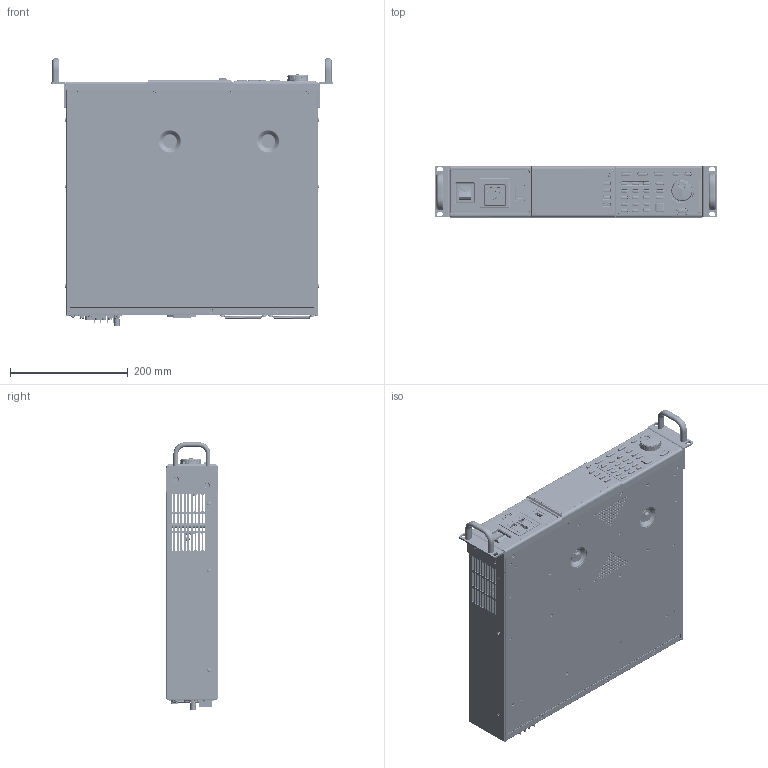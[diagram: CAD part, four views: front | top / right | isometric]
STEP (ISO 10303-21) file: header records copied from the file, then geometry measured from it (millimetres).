
FILE_DESCRIPTION((''),'2;1');
FILE_NAME('APS-500W_ASM','2020-11-02T11:26:40',('benny_chen'),(''),'CREO PARAMETRIC BY PTC INC, 2019080','CREO PARAMETRIC BY PTC INC, 2019080','');
FILE_SCHEMA(('CONFIG_CONTROL_DESIGN'));
Products named in the file (93): APS-500W_SKEL0001; APS-500W_SKEL0002; APS-1000W_FRONT_ASM_SKEL; ACSP-F-HP; S-M4-1_NUT; SO-M3-3L; SO-M3-4; SO-M3-S5; 62PS-7K0FP1B1-4_ASM; APS-HP-SOCKET_RG-02; 62PS-7K0FP2B1-2_ASM; 62PS-7K0FP1B1-3; APS-HP-SOCKET-BSF-R4_T1; 62PS-7K0FP1B1-2_ASM; 62PS-7K0FP1B1-1_ASM; LCD-PH-07008-002; APS-LCD-HOLD-3; 62PS-7K0HP301_ASM; 57RG-20B04001; 57RG-20B03901; APS-1000W_LCD_ASM_ASM; 3610-02000101-BSF-R4S-FRAME; 3610-02000101-BSF-R4S; 3610-02000101-GWT_ASM; APS-HP-A116-1229-USB01; 62PS-7K0HP101_ASM; FRP10; A116-1229-USB01; SCREW-4-40-8D3L; APS-USB-GND-HP_ASM; 3203-01200601; PMS-3X6; PMS-W-3X6; BMS-W-3X8; APS-F_ASM; APS-1000W_FRAME-A; TONGDING-5D5XM3X5L; 63FP-AG112801_ASM; 5005-350G0101; 57RB-40G11301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
Assembly tree (246 placements, depth 6):
  APS-500W_ASM
    APS-500W_SKEL0001
    APS-500W_SKEL0002
    APS-1000W_FRONT_ASM_ASM
      APS-1000W_FRONT_ASM_SKEL
      APS-F_ASM
        62PS-7K0FP1B1-1_ASM
          62PS-7K0FP1B1-4_ASM
            ACSP-F-HP
            S-M4-1_NUT  x4
            SO-M3-3L  x2
            SO-M3-4  x10
            SO-M3-S5  x2
          62PS-7K0FP2B1-2_ASM
            APS-HP-SOCKET_RG-02
          62PS-7K0FP1B1-3
          62PS-7K0FP1B1-2_ASM
            APS-HP-SOCKET-BSF-R4_T1
        APS-1000W_LCD_ASM_ASM
          LCD-PH-07008-002
          62PS-7K0HP301_ASM
            APS-LCD-HOLD-3
          57RG-20B04001  x2
          57RG-20B03901  x2
        3610-02000101-GWT_ASM
          3610-02000101-BSF-R4S-FRAME
          3610-02000101-BSF-R4S
        APS-USB-GND-HP_ASM
          62PS-7K0HP101_ASM
            APS-HP-A116-1229-USB01
          FRP10  x2
          A116-1229-USB01
          SCREW-4-40-8D3L  x2
        3203-01200601
        PMS-3X6  x2
        PMS-W-3X6  x4
        BMS-W-3X8  x8
      63FP-AG112801_ASM
        APS-1000W_FRAME-A
        TONGDING-5D5XM3X5L  x8
      5005-350G0101
      57RB-40G11301
      APS-1000W_MODEL_NP-A
      PMS-W-3X6  x8
      BMS-W-3X6  x8
    APS-500W-LO-ASM_ASM
      62PS-705LO101-1_ASM
        62PS-705LO101-2_ASM
          APS-500W-HP-LO
          S-M4-1_NUT  x4
          SO-M3-9  x16
          SO-M3-11  x4
          FH-M4-12  x2
        62PS-710LO101-4
        62PS-705LO101-3_ASM
          62PS-705LO101-3
      APS7000-EMI_OUT_ASM
        APS-DT-66-C11W-XX_3PIN
      APS-PCB-ANALOG_ASM
        RJ-45
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Bounding box: 479.4 x 87.94 x 454.7 mm (x, y, z)
Volume: 1196632.7 mm3; surface area: 1657653.1 mm2
Topology: 229 solids, 241 shells, 16210 faces, 40950 edges, 25801 vertices
Faces by surface type: plane 7972, cylinder 4837, bspline 1343, cone 1205, torus 499, sphere 212, extrusion 141, revolution 1
Entity records: 328754 total; most frequent: CARTESIAN_POINT 91553, DIRECTION 49270, ORIENTED_EDGE 48542, EDGE_CURVE 24318, AXIS2_PLACEMENT_3D 17467, VERTEX_POINT 15353, VECTOR 14335, LINE 14194
